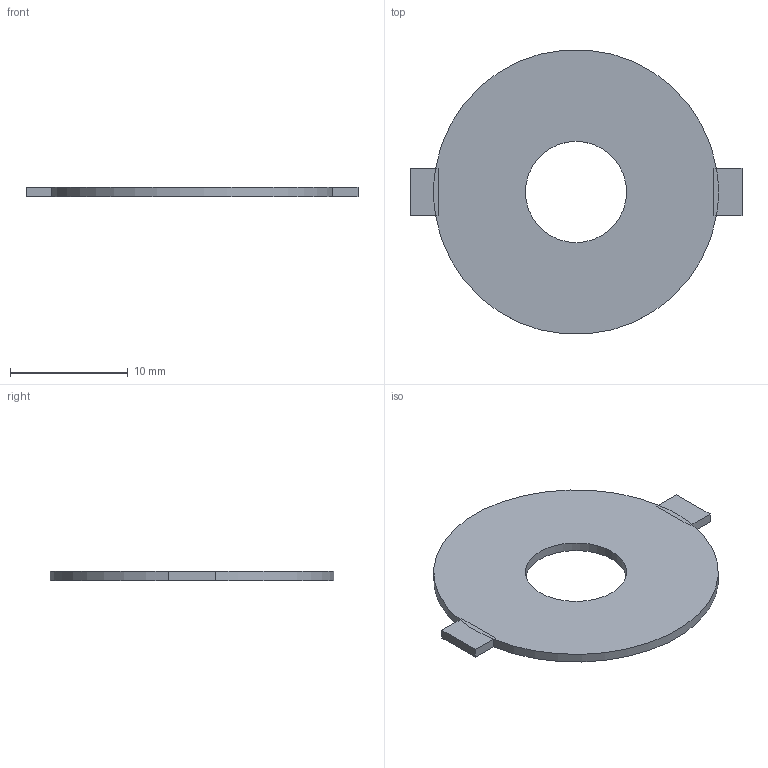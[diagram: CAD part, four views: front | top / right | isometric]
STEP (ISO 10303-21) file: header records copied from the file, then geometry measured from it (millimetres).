
FILE_DESCRIPTION(('Open CASCADE Model'),'2;1');
FILE_NAME('Open CASCADE Shape Model','2026-09-24T02:53:19',('Author'),( 'Open CASCADE'),'Open CASCADE STEP processor 7.8','Open CASCADE 7.8' ,'Unknown');
FILE_SCHEMA(('AUTOMOTIVE_DESIGN { 1 0 10303 214 1 1 1 1 }'));
Length unit declared in the file: millimetre
Products named in the file (1): Open CASCADE STEP translator 7.8 18
Bounding box: 28.2 x 24.12 x 0.8 mm (x, y, z)
Volume: 334.7 mm3; surface area: 926 mm2
Topology: 1 solids, 1 shells, 19 faces, 45 edges, 28 vertices
Faces by surface type: plane 16, cylinder 3
Full cylindrical faces by diameter (mm): 8.6 x1
Entity records: 1134 total; most frequent: CARTESIAN_POINT 191, DIRECTION 179, LINE 97, VECTOR 97, ORIENTED_EDGE 90, PCURVE 90, DEFINITIONAL_REPRESENTATION 90, EDGE_CURVE 45
